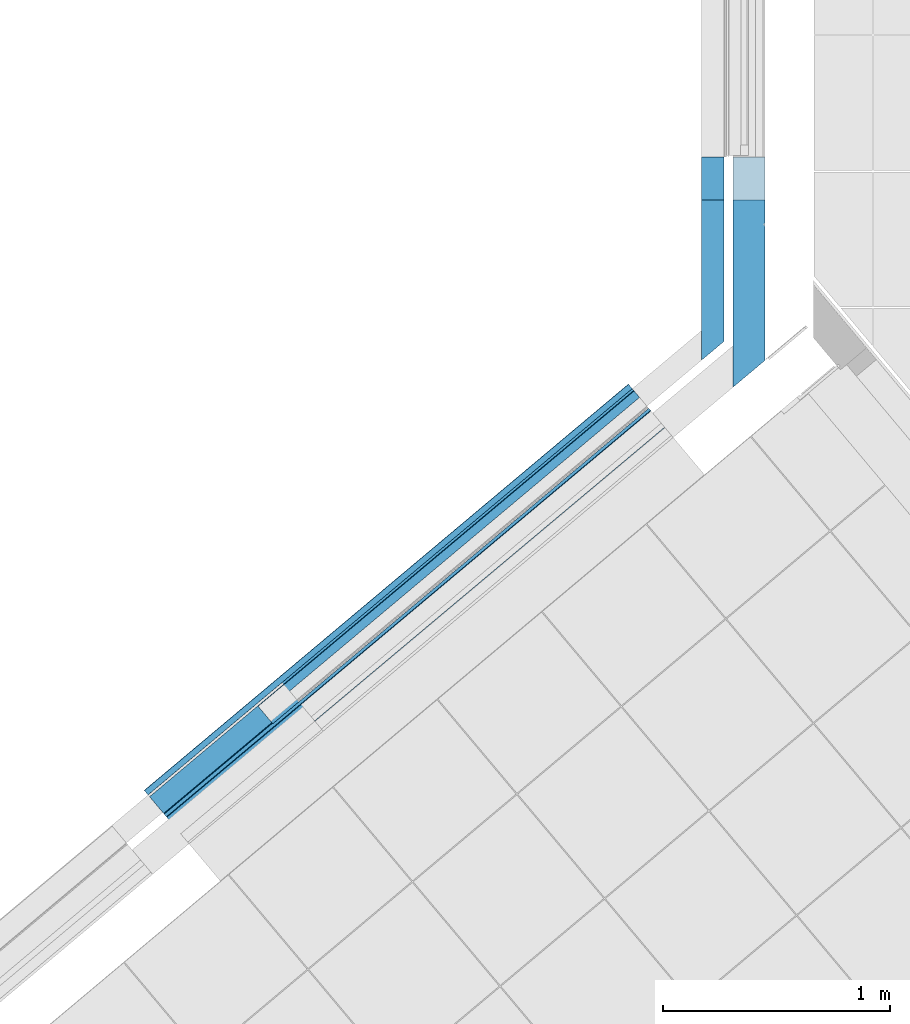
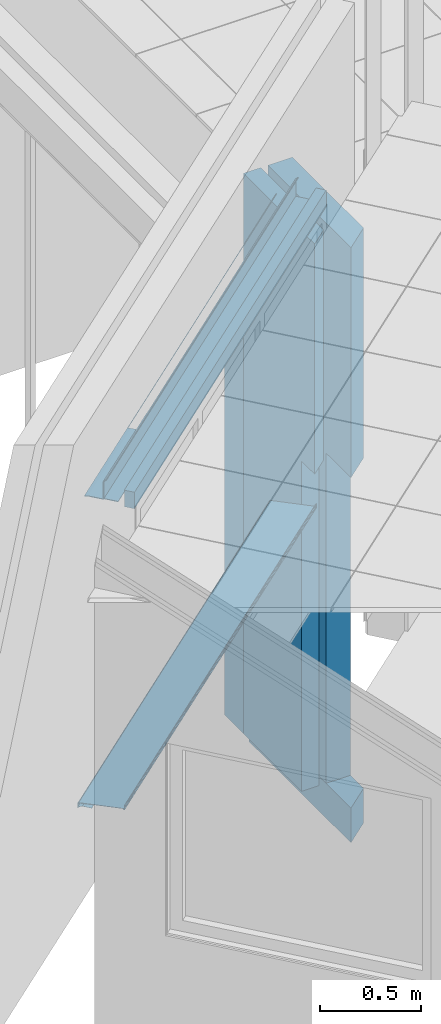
# One storey, part 57 of 321: 9 building element parts, 5 elements without a shape of their own.
"""IFC2X3 building model written with IfcOpenShell, lengths in millimetres."""

from ifc_helpers import new_model, entity, si_unit, converted_unit, derived_unit, money_unit, direction, frame, origin_with_axes, place, context, subcontext, project, spatial, faceted_brep, material, type_object, element, aggregate, save


model = new_model("IFC2X3")

# Units and contexts
model_context = context("Model", 3, precision=0.01, world=origin_with_axes(), true_north=direction((0.0, 1.0)))
plan_context = context("Plan", 3, precision=0.01, world=origin_with_axes(), true_north=direction((0.0, 1.0)))
body_context = subcontext(model_context, "Body", "Model", "MODEL_VIEW")
ifc_project = project(units=[si_unit("LENGTHUNIT", "METRE", prefix="MILLI"), si_unit("AREAUNIT", "SQUARE_METRE"), si_unit("VOLUMEUNIT", "CUBIC_METRE"), converted_unit("PLANEANGLEUNIT", "DEGREE", entity("IfcPlaneAngleMeasure", 0.0174532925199), si_unit("PLANEANGLEUNIT", "RADIAN"), dimensions=[0, 0, 0, 0, 0, 0, 0]), money_unit("EUR"), converted_unit("TIMEUNIT", "Year", entity("IfcTimeMeasure", 31556926.0), si_unit("TIMEUNIT", "SECOND"), dimensions=[0, 0, 1, 0, 0, 0, 0]), si_unit("MASSUNIT", "GRAM", prefix="KILO"), si_unit("THERMODYNAMICTEMPERATUREUNIT", "DEGREE_CELSIUS"), si_unit("LUMINOUSINTENSITYUNIT", "LUMEN"), si_unit("ENERGYUNIT", "JOULE", prefix="MEGA"), derived_unit("THERMALCONDUCTANCEUNIT", [(si_unit("POWERUNIT", "WATT"), 1), (si_unit("LENGTHUNIT", "METRE"), -1), (si_unit("THERMODYNAMICTEMPERATUREUNIT", "KELVIN"), -1)]), derived_unit("SPECIFICHEATCAPACITYUNIT", [(si_unit("ENERGYUNIT", "JOULE"), 1), (si_unit("MASSUNIT", "GRAM", prefix="KILO"), -1), (si_unit("THERMODYNAMICTEMPERATUREUNIT", "KELVIN"), -1)]), derived_unit("MASSDENSITYUNIT", [(si_unit("MASSUNIT", "GRAM", prefix="KILO"), 1), (si_unit("VOLUMEUNIT", "CUBIC_METRE"), -1)])], contexts=[model_context, plan_context])

# Site, building, storey
site_placement = place(None, origin_with_axes())
site = spatial("IfcSite", under=ifc_project, at=site_placement, Name="Fortuinstraat Woensdrecht", CompositionType="ELEMENT")
building_placement = place(site_placement, origin_with_axes())
building = spatial("IfcBuilding", under=site, at=building_placement, Name="IKC Fortuna", CompositionType="ELEMENT")
storey_placement = place(building_placement, frame((0.0, 0.0, 4000.0), z_axis=(0.0, 0.0, 1.0), x_axis=(1.0, 0.0, 0.0)))
storey = spatial("IfcBuildingStorey", under=building, at=storey_placement, Name="01 eerste verdieping", CompositionType="ELEMENT", Elevation=4000.0)

# Wall, building element parts
wall_type = type_object("IfcWallType", Name="21 MW hoofd 280", PredefinedType="NOTDEFINED")
wall_placement = place(storey_placement, frame((13315.4349765, 12114.91408, 447.5), z_axis=(0.0, 0.0, 1.0), x_axis=(0.0, -1.0, 0.0)))
wall = element("IfcWall", 1, at=wall_placement, inside=storey, type_object=wall_type, Name="21_Wand_Baksteen")
ifc_material_1 = material(Name="ALG - ISOLATIE")
building_element_part_1_placement = place(wall_placement, origin_with_axes())
building_element_part_1 = element("IfcBuildingElementPart", 2, at=building_element_part_1_placement, material=ifc_material_1, Name="ALG - ISOLATIE", context=body_context, shape_type="Brep", body=[
    faceted_brep([(706.989605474, 280.0, 2000.0), (576.42346119, 280.0, 2000.0), (576.42346119, 280.0, 0.0), (0.0, 280.0, 0.0), (0.0, 280.0, 3392.5), (706.989605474, 280.0, 3392.5), (576.42346119, 140.0, 2000.0), (824.463553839, 140.0, 2000.0), (576.42346119, 140.0, 0.0), (0.0, 140.0, 0.0), (0.0, 140.0, 3392.5), (824.463553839, 140.0, 3392.5)], [[[0, 1, 2, 3, 4, 5]], [[6, 1, 0, 7]], [[8, 2, 1, 6]], [[3, 2, 8, 9]], [[10, 4, 3, 9]], [[10, 11, 5, 4]], [[11, 7, 0, 5]], [[8, 6, 7, 11, 10, 9]]]),
])
ifc_material_2 = material(Name="Steen - Baksteen Hoofd")
building_element_part_2_placement = place(wall_placement, origin_with_axes())
building_element_part_2 = element("IfcBuildingElementPart", 3, at=building_element_part_2_placement, material=ifc_material_2, Name="Steen - Baksteen Hoofd", context=body_context, shape_type="Brep", body=[
    faceted_brep([(33.6699097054, 100.0, 2352.5), (33.6699097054, 100.0, 2363.32842713), (0.0, 100.0, 2363.32842713), (0.0, 100.0, 3392.5), (623.054216, 99.9999998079, 3392.5), (623.054222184, 100.000005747, 2000.0), (576.42346119, 100.0, 2000.0), (576.42346119, 100.0, 0.0), (0.0, 100.0, 0.0), (0.0, 100.0, 2352.5), (33.6699097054, 19.9999999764, 2352.5), (33.6699097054, 19.9999999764, 2356.5), (33.6699097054, 21.7573592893, 2360.74264069), (33.6699097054, 25.9999999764, 2362.5), (33.6699097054, 97.9999999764, 2362.5), (0.0, 97.9999999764, 2362.5), (0.0, 19.9999999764, 2352.5), (0.0, 0.0, 0.0), (0.0, 0.0, 3392.5), (0.0, 25.9999999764, 2362.5), (0.0, 21.7573592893, 2360.74264069), (0.0, 19.9999999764, 2356.5), (706.96417949, -3.01609404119e-07, 3392.5), (706.964185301, 5.74697445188e-06, 2000.0), (576.42346119, 0.0, 2000.0), (576.42346119, 0.0, 0.0)], [[[0, 1, 2, 3, 4, 5, 6, 7, 8, 9]], [[1, 0, 10, 11, 12, 13, 14]], [[15, 2, 1, 14]], [[16, 9, 8, 17, 18, 3, 2, 15, 19, 20, 21]], [[3, 18, 22, 4]], [[22, 23, 5, 4]], [[24, 6, 5, 23]], [[6, 24, 25, 7]], [[25, 17, 8, 7]], [[0, 9, 16, 10]], [[16, 21, 11, 10]], [[21, 20, 12, 11]], [[20, 19, 13, 12]], [[19, 15, 14, 13]], [[25, 24, 23, 22, 18, 17]]]),
])
aggregate(wall, [building_element_part_1, building_element_part_2])

# Covering, building element part
covering_type_1 = type_object("IfcCoveringType", Name="41 Rollaag 280 x 210", PredefinedType="NOTDEFINED")
covering_1_placement = place(storey_placement, frame((13455.4349765, 11473.2075466, 237.5), z_axis=(0.0, 0.0, 1.0), x_axis=(0.0, 1.0, 0.0)))
covering_1 = element("IfcCovering", 4, at=covering_1_placement, inside=storey, type_object=covering_type_1, Name="41_Afwerking_Rollaag", PredefinedType="NOTDEFINED")
building_element_part_3_placement = place(covering_1_placement, origin_with_axes())
building_element_part_3 = element("IfcBuildingElementPart", 5, at=building_element_part_3_placement, material=ifc_material_1, Name="ALG - ISOLATIE", context=body_context, shape_type="Brep", body=[
    faceted_brep([(-182.757020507, 0.0, 210.0), (-65.2830721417, -140.0, 210.0), (829.20653333, -140.0, 210.0), (829.20653333, 0.0, 210.0), (-65.2830721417, -140.0, 0.0), (-182.757020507, 0.0, 0.0), (829.20653333, -140.0, 0.0), (829.20653333, 0.0, 0.0)], [[[0, 1, 2, 3]], [[4, 1, 0, 5]], [[1, 4, 6, 2]], [[6, 7, 3, 2]], [[5, 0, 3, 7]], [[4, 5, 7, 6]]]),
])
aggregate(covering_1, [building_element_part_3])

covering_type_2 = type_object("IfcCoveringType", Name="21 MW accent rollaag 280", PredefinedType="NOTDEFINED")
covering_2_placement = place(storey_placement, frame((13315.4349765, 12114.91408, 447.5), z_axis=(0.0, 0.0, 1.0), x_axis=(0.0, 1.0, 0.0)))
covering_2 = element("IfcCovering", 6, at=covering_2_placement, inside=storey, type_object=covering_type_2, Name="41_Afwerking_Rollaag", PredefinedType="NOTDEFINED")
ifc_material_3 = material(Name="Steen - Baksteen Accent Rollaag")
building_element_part_4_placement = place(covering_2_placement, origin_with_axes())
building_element_part_4 = element("IfcBuildingElementPart", 7, at=building_element_part_4_placement, material=ifc_material_3, Name="Steen - Baksteen Accent Rollaag", context=body_context, shape_type="Brep", body=[
    faceted_brep([(0.0, -100.0, 2363.32842713), (187.5, -100.0, 2363.32842713), (187.5, -100.0, 2562.5), (0.0, -100.0, 2562.5), (187.5, -97.9999999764, 2362.5), (0.0, -97.9999999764, 2362.5), (187.5, -19.9999999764, 2352.5), (187.5, -100.0, 2352.5), (187.5, -100.0, 0.0), (187.5, 0.0, 0.0), (187.5, 0.0, 2562.5), (187.5, -25.9999999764, 2362.5), (187.5, -21.7573592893, 2360.74264069), (187.5, -19.9999999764, 2356.5), (0.0, 0.0, 2562.5), (0.0, 0.0, 0.0), (0.0, -100.0, 0.0), (0.0, -100.0, 2352.5), (0.0, -19.9999999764, 2352.5), (0.0, -19.9999999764, 2356.5), (0.0, -21.7573592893, 2360.74264069), (0.0, -25.9999999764, 2362.5)], [[[0, 1, 2, 3]], [[4, 1, 0, 5]], [[6, 7, 8, 9, 10, 2, 1, 4, 11, 12, 13]], [[3, 2, 10, 14]], [[5, 0, 3, 14, 15, 16, 17, 18, 19, 20, 21]], [[11, 4, 5, 21]], [[17, 7, 6, 18]], [[7, 17, 16, 8]], [[15, 9, 8, 16]], [[14, 10, 9, 15]], [[12, 11, 21, 20]], [[13, 12, 20, 19]], [[6, 13, 19, 18]]]),
])
aggregate(covering_2, [building_element_part_4])

# Covering, building element parts
covering_type_3 = type_object("IfcCoveringType", Name="41 Waterslag MW 545 x 90", PredefinedType="NOTDEFINED")
covering_3_placement = place(storey_placement, frame((13101.5865988, 11176.2935034, 2522.49999925), z_axis=(0.0, 0.0, 1.0), x_axis=(-0.766044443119, -0.642787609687, 0.0)))
covering_3 = element("IfcCovering", 8, at=covering_3_placement, inside=storey, type_object=covering_type_3, Name="41_Afwerking_Waterslag", PredefinedType="NOTDEFINED")
ifc_material_4 = material(Name="Metaal - Aluminium")
building_element_part_5_placement = place(covering_3_placement, origin_with_axes())
building_element_part_5 = element("IfcBuildingElementPart", 9, at=building_element_part_5_placement, material=ifc_material_4, Name="Metaal - Aluminium", context=body_context, shape_type="Brep", body=[
    faceted_brep([(2780.83841466, -167.003696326, -64.7512509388), (2780.83841466, -164.901915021, -59.3465292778), (0.0, -164.901915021, -59.3465292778), (0.0, -167.003696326, -64.7512509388), (2780.83841466, -167.003696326, -86.9206015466), (2780.83841466, -166.030466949, -89.132433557), (2780.83841466, -163.742229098, -89.9091856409), (2780.83841466, -162.360118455, -89.7882666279), (2780.83841466, -162.035057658, -89.6279643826), (2780.83841466, -161.903696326, -89.2901692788), (2780.83841466, -161.903696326, -84.9222091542), (2780.83841466, -162.050140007, -84.5686628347), (2780.83841466, -162.403686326, -84.4222191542), (2780.83841466, -162.653694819, -84.4222191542), (2780.83841466, -163.358998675, -84.7155720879), (2780.83841466, -163.403696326, -84.9222091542), (2780.83841466, -163.403696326, -86.7222191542), (2780.83841466, -163.46227497, -86.8636405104), (2780.83841466, -163.603696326, -86.9222191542), (2780.83841466, -165.303696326, -86.9222191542), (2780.83841466, -165.445117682, -86.8636405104), (2780.83841466, -165.503696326, -86.7222191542), (2780.83841466, -165.503696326, -66.105485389), (2780.83841466, -165.451151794, -65.9703673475), (2780.83841466, -165.321127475, -65.9062464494), (2780.83841466, -163.621127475, -65.7575157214), (2780.83841466, -163.468578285, -65.8092991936), (2780.83841466, -163.403696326, -65.956754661), (2780.83841466, -163.403696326, -67.9222291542), (2780.83841466, -163.257252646, -68.2757754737), (2780.83841466, -162.903706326, -68.4222191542), (2780.83841466, -162.403686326, -68.4222191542), (2780.83841466, -162.050140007, -68.2757754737), (2780.83841466, -161.903696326, -67.9222291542), (2780.83841466, -161.903696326, -65.7905262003), (2780.83841466, -161.851151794, -65.6554081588), (2780.83841466, -161.721127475, -65.5912872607), (2780.83841466, -157.460879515, -65.2185638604), (2780.83841466, -157.135818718, -65.0582616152), (2780.83841466, -157.004457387, -64.7204665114), (2780.83841466, -157.004457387, -64.2185456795), (2780.83841466, -157.166659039, -63.8499143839), (2780.83841466, -157.548024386, -63.7204582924), (2780.83841466, -164.111737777, -64.2947088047), (2780.83841466, -164.52638143, -64.131738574), (2780.83841466, -164.646415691, -63.7026926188), (2780.83841466, -162.774740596, -60.3769292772), (2780.83841466, -159.276149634, -58.852550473), (2780.83841466, 80.4527258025, -37.8789915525), (2780.83841466, 80.8340987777, -38.0084502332), (2780.83841466, 80.9963036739, -38.3770889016), (2780.83841466, 80.9963036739, -42.3923682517), (2780.83841466, 80.8649423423, -42.7301633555), (2780.83841466, 80.5398815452, -42.8904656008), (2780.83841466, 74.9527258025, -43.3792783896), (2780.83841466, 74.6276650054, -43.5395806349), (2780.83841466, 74.4963036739, -43.8773757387), (2780.83841466, 74.4963036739, -44.3792856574), (2780.83841466, 74.65850857, -44.7479243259), (2780.83841466, 75.0398815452, -44.8773830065), (2780.83841466, 82.4237866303, -44.231375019), (2780.83841466, 82.547776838, -44.1735574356), (2780.83841466, 82.9377250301, -43.7836092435), (2780.83841466, 83.0, -43.6421878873), (2780.83841466, 82.9377250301, -43.5007665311), (2780.83841466, 82.4963036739, -43.0593451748), (2780.83841466, 82.9377250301, -42.6179238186), (2780.83841466, 83.0, -42.4765024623), (2780.83841466, 82.9377250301, -42.3350811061), (2780.83841466, 82.4963036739, -41.8936597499), (2780.83841466, 82.9377250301, -41.4522383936), (2780.83841466, 83.0, -41.3108170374), (2780.83841466, 82.9377250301, -41.1693956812), (2780.83841466, 82.4963036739, -40.7279743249), (2780.83841466, 82.9377250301, -40.2865529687), (2780.83841466, 83.0, -40.1451316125), (2780.83841466, 82.9377250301, -40.0037102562), (2780.83841466, 82.4963036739, -39.5622889), (2780.83841466, 82.9377250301, -39.1208675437), (2780.83841466, 83.0, -38.9794461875), (2780.83841466, 82.9377250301, -38.8380248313), (2780.83841466, 82.4963036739, -38.396603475), (2780.83841466, 82.9377250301, -37.9551821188), (2780.83841466, 83.0, -37.8137607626), (2780.83841466, 82.9377250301, -37.6723394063), (2780.83841466, 82.4963036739, -37.2309180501), (2780.83841466, 82.9377250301, -36.7894966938), (2780.83841466, 83.0, -36.6480753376), (2780.83841466, 82.9377250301, -36.5066539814), (2780.83841466, 82.4963036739, -36.0652326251), (2780.83841466, 82.9377250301, -35.6238112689), (2780.83841466, 83.0, -35.4823899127), (2780.83841466, 82.9377250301, -35.3409685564), (2780.83841466, 82.4963036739, -34.8995472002), (2780.83841466, 82.9377250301, -34.4581258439), (2780.83841466, 83.0, -34.3167044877), (2780.83841466, 82.9377250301, -34.1752831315), (2780.83841466, 82.4963036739, -33.7338617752), (2780.83841466, 82.9377250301, -33.292440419), (2780.83841466, 83.0, -33.1510190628), (2780.83841466, 82.9377250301, -33.0095977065), (2780.83841466, 82.4963036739, -32.5681763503), (2780.83841466, 82.9377250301, -32.126754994), (2780.83841466, 83.0, -31.9853336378), (2780.83841466, 82.9377250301, -31.8439122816), (2780.83841466, 82.4963036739, -31.4024909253), (2780.83841466, 82.9377250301, -30.9610695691), (2780.83841466, 83.0, -30.8196482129), (2780.83841466, 82.9377250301, -30.6782268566), (2780.83841466, 82.4963036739, -30.2368055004), (2780.83841466, 82.9377250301, -29.7953841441), (2780.83841466, 83.0, -29.6539627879), (2780.83841466, 82.9377250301, -29.5125414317), (2780.83841466, 82.4963036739, -29.0711200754), (2780.83841466, 82.9377250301, -28.6296987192), (2780.83841466, 83.0, -28.488277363), (2780.83841466, 82.9377250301, -28.3468560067), (2780.83841466, 82.4963036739, -27.9054346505), (2780.83841466, 82.9377250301, -27.4640132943), (2780.83841466, 83.0, -27.322591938), (2780.83841466, 82.9377250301, -27.1811705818), (2780.83841466, 82.4963036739, -26.7397492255), (2780.83841466, 82.9377250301, -26.2983278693), (2780.83841466, 83.0, -26.1569065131), (2780.83841466, 82.9377250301, -26.0154851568), (2780.83841466, 82.4963036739, -25.5740638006), (2780.83841466, 82.9377250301, -25.1326424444), (2780.83841466, 83.0, -24.9912210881), (2780.83841466, 82.9377250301, -24.8497997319), (2780.83841466, 82.4963036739, -24.4083783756), (2780.83841466, 82.9377250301, -23.9669570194), (2780.83841466, 83.0, -23.8255356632), (2780.83841466, 82.9377250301, -23.6841143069), (2780.83841466, 82.4963036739, -23.2426929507), (2780.83841466, 82.9377250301, -22.8012715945), (2780.83841466, 83.0, -22.6598502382), (2780.83841466, 82.9377250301, -22.518428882), (2780.83841466, 82.4963036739, -22.0770075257), (2780.83841466, 82.9377250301, -21.6355861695), (2780.83841466, 83.0, -21.4941648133), (2780.83841466, 82.9377250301, -21.352743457), (2780.83841466, 82.4963036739, -20.9113221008), (2780.83841466, 82.9377250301, -20.4699007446), (2780.83841466, 83.0, -20.3284793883), (2780.83841466, 82.9377250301, -20.1870580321), (2780.83841466, 82.4963036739, -19.7456366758), (2780.83841466, 82.9377250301, -19.3042153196), (2780.83841466, 83.0, -19.1627939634), (2780.83841466, 82.9377250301, -19.0213726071), (2780.83841466, 82.4963036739, -18.5799512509), (2780.83841466, 82.9377250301, -18.1385298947), (2780.83841466, 83.0, -17.9971085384), (2780.83841466, 82.9377250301, -17.8556871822), (2780.83841466, 82.4963036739, -17.4142658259), (2780.83841466, 82.9377250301, -16.9728444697), (2780.83841466, 82.9963036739, -16.8314231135), (2780.83841466, 82.9963036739, -16.4250305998), (2780.83841466, 82.9437448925, -16.2898970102), (2780.83841466, 82.8136928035, -16.2257879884), (2780.83841466, 82.3655700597, -16.2619509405), (2780.83841466, 81.3903876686, -16.7428576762), (2780.83841466, 80.9963036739, -17.7562429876), (2780.83841466, 80.9963036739, -35.2652474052), (2780.83841466, 80.8649423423, -35.603042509), (2780.83841466, 80.5398815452, -35.7633447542), (2780.83841466, -159.700942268, -56.781693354), (0.0, -159.700942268, -56.781693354), (0.0, 80.5398815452, -35.7633447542), (0.0, 80.8649423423, -35.603042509), (0.0, 80.9963036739, -35.2652474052), (0.0, 80.9963036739, -17.7562429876), (0.0, 81.3903876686, -16.7428576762), (0.0, 82.3655700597, -16.2619509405), (0.0, 82.8136928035, -16.2257879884), (0.0, 82.9437448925, -16.2898970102), (0.0, 82.9963036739, -16.4250305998), (0.0, 82.9963036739, -16.8314231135), (0.0, 82.9377250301, -16.9728444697), (0.0, 82.4963036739, -17.4142658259), (0.0, 82.9377250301, -17.8556871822), (0.0, 83.0, -17.9971085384), (0.0, 82.9377250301, -18.1385298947), (0.0, 82.4963036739, -18.5799512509), (0.0, 82.9377250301, -19.0213726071), (0.0, 83.0, -19.1627939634), (0.0, 82.9377250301, -19.3042153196), (0.0, 82.4963036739, -19.7456366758), (0.0, 82.9377250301, -20.1870580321), (0.0, 83.0, -20.3284793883), (0.0, 82.9377250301, -20.4699007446), (0.0, 82.4963036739, -20.9113221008), (0.0, 82.9377250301, -21.352743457), (0.0, 83.0, -21.4941648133), (0.0, 82.9377250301, -21.6355861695), (0.0, 82.4963036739, -22.0770075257), (0.0, 82.9377250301, -22.518428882), (0.0, 83.0, -22.6598502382), (0.0, 82.9377250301, -22.8012715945), (0.0, 82.4963036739, -23.2426929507), (0.0, 82.9377250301, -23.6841143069), (0.0, 83.0, -23.8255356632), (0.0, 82.9377250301, -23.9669570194), (0.0, 82.4963036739, -24.4083783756), (0.0, 82.9377250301, -24.8497997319), (0.0, 83.0, -24.9912210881), (0.0, 82.9377250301, -25.1326424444), (0.0, 82.4963036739, -25.5740638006), (0.0, 82.9377250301, -26.0154851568), (0.0, 83.0, -26.1569065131), (0.0, 82.9377250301, -26.2983278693), (0.0, 82.4963036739, -26.7397492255), (0.0, 82.9377250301, -27.1811705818), (0.0, 83.0, -27.322591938), (0.0, 82.9377250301, -27.4640132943), (0.0, 82.4963036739, -27.9054346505), (0.0, 82.9377250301, -28.3468560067), (0.0, 83.0, -28.488277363), (0.0, 82.9377250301, -28.6296987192), (0.0, 82.4963036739, -29.0711200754), (0.0, 82.9377250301, -29.5125414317), (0.0, 83.0, -29.6539627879), (0.0, 82.9377250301, -29.7953841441), (0.0, 82.4963036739, -30.2368055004), (0.0, 82.9377250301, -30.6782268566), (0.0, 83.0, -30.8196482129), (0.0, 82.9377250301, -30.9610695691), (0.0, 82.4963036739, -31.4024909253), (0.0, 82.9377250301, -31.8439122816), (0.0, 83.0, -31.9853336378), (0.0, 82.9377250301, -32.126754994), (0.0, 82.4963036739, -32.5681763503), (0.0, 82.9377250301, -33.0095977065), (0.0, 83.0, -33.1510190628), (0.0, 82.9377250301, -33.292440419), (0.0, 82.4963036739, -33.7338617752), (0.0, 82.9377250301, -34.1752831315), (0.0, 83.0, -34.3167044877), (0.0, 82.9377250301, -34.4581258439), (0.0, 82.4963036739, -34.8995472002), (0.0, 82.9377250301, -35.3409685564), (0.0, 83.0, -35.4823899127), (0.0, 82.9377250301, -35.6238112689), (0.0, 82.4963036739, -36.0652326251), (0.0, 82.9377250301, -36.5066539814), (0.0, 83.0, -36.6480753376), (0.0, 82.9377250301, -36.7894966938), (0.0, 82.4963036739, -37.2309180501), (0.0, 82.9377250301, -37.6723394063), (0.0, 83.0, -37.8137607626), (0.0, 82.9377250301, -37.9551821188), (0.0, 82.4963036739, -38.396603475), (0.0, 82.9377250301, -38.8380248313), (0.0, 83.0, -38.9794461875), (0.0, 82.9377250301, -39.1208675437), (0.0, 82.4963036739, -39.5622889), (0.0, 82.9377250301, -40.0037102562), (0.0, 83.0, -40.1451316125), (0.0, 82.9377250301, -40.2865529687), (0.0, 82.4963036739, -40.7279743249), (0.0, 82.9377250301, -41.1693956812), (0.0, 83.0, -41.3108170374), (0.0, 82.9377250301, -41.4522383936), (0.0, 82.4963036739, -41.8936597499), (0.0, 82.9377250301, -42.3350811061), (0.0, 83.0, -42.4765024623), (0.0, 82.9377250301, -42.6179238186), (0.0, 82.4963036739, -43.0593451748), (0.0, 82.9377250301, -43.5007665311), (0.0, 83.0, -43.6421878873), (0.0, 82.9377250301, -43.7836092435), (0.0, 82.547776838, -44.1735574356), (0.0, 82.4237866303, -44.231375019), (0.0, 75.0398815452, -44.8773830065), (0.0, 74.65850857, -44.7479243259), (0.0, 74.4963036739, -44.3792856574), (0.0, 74.4963036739, -43.8773757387), (0.0, 74.6276650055, -43.5395806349), (0.0, 74.9527258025, -43.3792783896), (0.0, 80.5398815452, -42.8904656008), (0.0, 80.8649423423, -42.7301633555), (0.0, 80.9963036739, -42.3923682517), (0.0, 80.9963036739, -38.3770889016), (0.0, 80.8340987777, -38.0084502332), (0.0, 80.4527258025, -37.8789915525), (0.0, -159.276149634, -58.852550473), (0.0, -162.774740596, -60.3769292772), (0.0, -164.646415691, -63.7026926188), (0.0, -164.52638143, -64.131738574), (0.0, -164.111737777, -64.2947088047), (0.0, -157.548024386, -63.7204582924), (0.0, -157.166659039, -63.8499143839), (0.0, -157.004457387, -64.2185456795), (0.0, -157.004457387, -64.7204665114), (0.0, -157.135818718, -65.0582616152), (0.0, -157.460879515, -65.2185638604), (0.0, -161.721127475, -65.5912872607), (0.0, -161.851151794, -65.6554081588), (0.0, -161.903696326, -65.7905262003), (0.0, -161.903696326, -67.9222291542), (0.0, -162.050140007, -68.2757754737), (0.0, -162.403686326, -68.4222191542), (0.0, -162.903706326, -68.4222191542), (0.0, -163.257252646, -68.2757754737), (0.0, -163.403696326, -67.9222291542), (0.0, -163.403696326, -65.956754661), (0.0, -163.468578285, -65.8092991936), (0.0, -163.621127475, -65.7575157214), (0.0, -165.321127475, -65.9062464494), (0.0, -165.451151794, -65.9703673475), (0.0, -165.503696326, -66.105485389), (0.0, -165.503696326, -86.7222191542), (0.0, -165.445117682, -86.8636405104), (0.0, -165.303696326, -86.9222191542), (0.0, -163.603696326, -86.9222191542), (0.0, -163.46227497, -86.8636405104), (0.0, -163.403696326, -86.7222191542), (0.0, -163.403696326, -84.9222091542), (0.0, -163.358998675, -84.7155720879), (0.0, -162.653694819, -84.4222191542), (0.0, -162.403686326, -84.4222191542), (0.0, -162.050140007, -84.5686628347), (0.0, -161.903696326, -84.9222091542), (0.0, -161.903696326, -89.2901692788), (0.0, -162.035057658, -89.6279643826), (0.0, -162.360118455, -89.7882666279), (0.0, -163.742229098, -89.9091856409), (0.0, -166.030466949, -89.132433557), (0.0, -167.003696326, -86.9206015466)], [[[0, 1, 2, 3]], [[0, 4, 5, 6, 7, 8, 9, 10, 11, 12, 13, 14, 15, 16, 17, 18, 19, 20, 21, 22, 23, 24, 25, 26, 27, 28, 29, 30, 31, 32, 33, 34, 35, 36, 37, 38, 39, 40, 41, 42, 43, 44, 45, 46, 47, 48, 49, 50, 51, 52, 53, 54, 55, 56, 57, 58, 59, 60, 61, 62, 63, 64, 65, 66, 67, 68, 69, 70, 71, 72, 73, 74, 75, 76, 77, 78, 79, 80, 81, 82, 83, 84, 85, 86, 87, 88, 89, 90, 91, 92, 93, 94, 95, 96, 97, 98, 99, 100, 101, 102, 103, 104, 105, 106, 107, 108, 109, 110, 111, 112, 113, 114, 115, 116, 117, 118, 119, 120, 121, 122, 123, 124, 125, 126, 127, 128, 129, 130, 131, 132, 133, 134, 135, 136, 137, 138, 139, 140, 141, 142, 143, 144, 145, 146, 147, 148, 149, 150, 151, 152, 153, 154, 155, 156, 157, 158, 159, 160, 161, 162, 163, 164, 165, 1]], [[1, 165, 166, 2]], [[3, 2, 166, 167, 168, 169, 170, 171, 172, 173, 174, 175, 176, 177, 178, 179, 180, 181, 182, 183, 184, 185, 186, 187, 188, 189, 190, 191, 192, 193, 194, 195, 196, 197, 198, 199, 200, 201, 202, 203, 204, 205, 206, 207, 208, 209, 210, 211, 212, 213, 214, 215, 216, 217, 218, 219, 220, 221, 222, 223, 224, 225, 226, 227, 228, 229, 230, 231, 232, 233, 234, 235, 236, 237, 238, 239, 240, 241, 242, 243, 244, 245, 246, 247, 248, 249, 250, 251, 252, 253, 254, 255, 256, 257, 258, 259, 260, 261, 262, 263, 264, 265, 266, 267, 268, 269, 270, 271, 272, 273, 274, 275, 276, 277, 278, 279, 280, 281, 282, 283, 284, 285, 286, 287, 288, 289, 290, 291, 292, 293, 294, 295, 296, 297, 298, 299, 300, 301, 302, 303, 304, 305, 306, 307, 308, 309, 310, 311, 312, 313, 314, 315, 316, 317, 318, 319, 320, 321, 322, 323, 324, 325, 326, 327]], [[4, 0, 3, 327]], [[5, 4, 327, 326]], [[6, 5, 326, 325]], [[7, 6, 325, 324]], [[8, 7, 324, 323]], [[9, 8, 323, 322]], [[10, 9, 322, 321]], [[11, 10, 321, 320]], [[12, 11, 320, 319]], [[13, 12, 319, 318]], [[14, 13, 318, 317]], [[15, 14, 317, 316]], [[16, 15, 316, 315]], [[17, 16, 315, 314]], [[18, 17, 314, 313]], [[19, 18, 313, 312]], [[20, 19, 312, 311]], [[21, 20, 311, 310]], [[22, 21, 310, 309]], [[23, 22, 309, 308]], [[24, 23, 308, 307]], [[25, 24, 307, 306]], [[26, 25, 306, 305]], [[27, 26, 305, 304]], [[28, 27, 304, 303]], [[29, 28, 303, 302]], [[30, 29, 302, 301]], [[31, 30, 301, 300]], [[32, 31, 300, 299]], [[33, 32, 299, 298]], [[34, 33, 298, 297]], [[35, 34, 297, 296]], [[36, 35, 296, 295]], [[37, 36, 295, 294]], [[38, 37, 294, 293]], [[39, 38, 293, 292]], [[40, 39, 292, 291]], [[41, 40, 291, 290]], [[42, 41, 290, 289]], [[43, 42, 289, 288]], [[44, 43, 288, 287]], [[45, 44, 287, 286]], [[46, 45, 286, 285]], [[47, 46, 285, 284]], [[48, 47, 284, 283]], [[49, 48, 283, 282]], [[50, 49, 282, 281]], [[51, 50, 281, 280]], [[52, 51, 280, 279]], [[53, 52, 279, 278]], [[54, 53, 278, 277]], [[55, 54, 277, 276]], [[56, 55, 276, 275]], [[57, 56, 275, 274]], [[58, 57, 274, 273]], [[59, 58, 273, 272]], [[60, 59, 272, 271]], [[61, 60, 271, 270]], [[62, 61, 270, 269]], [[63, 62, 269, 268]], [[64, 63, 268, 267]], [[65, 64, 267, 266]], [[66, 65, 266, 265]], [[67, 66, 265, 264]], [[68, 67, 264, 263]], [[69, 68, 263, 262]], [[70, 69, 262, 261]], [[71, 70, 261, 260]], [[72, 71, 260, 259]], [[73, 72, 259, 258]], [[74, 73, 258, 257]], [[75, 74, 257, 256]], [[76, 75, 256, 255]], [[77, 76, 255, 254]], [[78, 77, 254, 253]], [[79, 78, 253, 252]], [[80, 79, 252, 251]], [[81, 80, 251, 250]], [[82, 81, 250, 249]], [[83, 82, 249, 248]], [[84, 83, 248, 247]], [[85, 84, 247, 246]], [[86, 85, 246, 245]], [[87, 86, 245, 244]], [[88, 87, 244, 243]], [[89, 88, 243, 242]], [[90, 89, 242, 241]], [[91, 90, 241, 240]], [[92, 91, 240, 239]], [[93, 92, 239, 238]], [[94, 93, 238, 237]], [[95, 94, 237, 236]], [[96, 95, 236, 235]], [[97, 96, 235, 234]], [[98, 97, 234, 233]], [[99, 98, 233, 232]], [[100, 99, 232, 231]], [[101, 100, 231, 230]], [[102, 101, 230, 229]], [[103, 102, 229, 228]], [[104, 103, 228, 227]], [[105, 104, 227, 226]], [[106, 105, 226, 225]], [[107, 106, 225, 224]], [[108, 107, 224, 223]], [[109, 108, 223, 222]], [[110, 109, 222, 221]], [[111, 110, 221, 220]], [[112, 111, 220, 219]], [[113, 112, 219, 218]], [[114, 113, 218, 217]], [[115, 114, 217, 216]], [[116, 115, 216, 215]], [[117, 116, 215, 214]], [[118, 117, 214, 213]], [[119, 118, 213, 212]], [[120, 119, 212, 211]], [[121, 120, 211, 210]], [[122, 121, 210, 209]], [[123, 122, 209, 208]], [[124, 123, 208, 207]], [[125, 124, 207, 206]], [[126, 125, 206, 205]], [[127, 126, 205, 204]], [[128, 127, 204, 203]], [[129, 128, 203, 202]], [[130, 129, 202, 201]], [[131, 130, 201, 200]], [[132, 131, 200, 199]], [[133, 132, 199, 198]], [[134, 133, 198, 197]], [[135, 134, 197, 196]], [[136, 135, 196, 195]], [[137, 136, 195, 194]], [[138, 137, 194, 193]], [[139, 138, 193, 192]], [[140, 139, 192, 191]], [[141, 140, 191, 190]], [[142, 141, 190, 189]], [[143, 142, 189, 188]], [[144, 143, 188, 187]], [[145, 144, 187, 186]], [[146, 145, 186, 185]], [[147, 146, 185, 184]], [[148, 147, 184, 183]], [[149, 148, 183, 182]], [[150, 149, 182, 181]], [[151, 150, 181, 180]], [[152, 151, 180, 179]], [[153, 152, 179, 178]], [[154, 153, 178, 177]], [[155, 154, 177, 176]], [[156, 155, 176, 175]], [[157, 156, 175, 174]], [[158, 157, 174, 173]], [[159, 158, 173, 172]], [[160, 159, 172, 171]], [[161, 160, 171, 170]], [[162, 161, 170, 169]], [[163, 162, 169, 168]], [[164, 163, 168, 167]], [[165, 164, 167, 166]]]),
])
building_element_part_6_placement = place(covering_3_placement, origin_with_axes())
building_element_part_6 = element("IfcBuildingElementPart", 10, at=building_element_part_6_placement, material=ifc_material_4, Name="Metaal - Aluminium", context=body_context, shape_type="Brep", body=[
    faceted_brep([(2780.83841466, -89.9999998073, -74.9999995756), (2780.83841466, -140.000000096, -74.9999995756), (0.0, -140.000000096, -74.9999995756), (0.0, -89.9999998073, -74.9999995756), (2780.83841466, -89.9999998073, -74.0000108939), (2780.83841466, -140.199670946, -73.9999995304), (2780.83841466, -165.503695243, -84.5245552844), (2780.83841466, -165.119664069, -85.4478754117), (2780.83841466, -163.358998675, -84.7155720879), (2780.83841466, -162.653694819, -84.4222191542), (0.0, -162.653694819, -84.4222191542), (0.0, -163.358998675, -84.7155720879), (0.0, -165.119664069, -85.4478754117), (0.0, -165.503695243, -84.5245552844), (0.0, -140.199670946, -73.9999995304), (0.0, -89.9999998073, -74.0000108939)], [[[0, 1, 2, 3]], [[0, 4, 5, 6, 7, 8, 9, 1]], [[1, 9, 10, 2]], [[3, 2, 10, 11, 12, 13, 14, 15]], [[4, 0, 3, 15]], [[5, 4, 15, 14]], [[6, 5, 14, 13]], [[7, 6, 13, 12]], [[8, 7, 12, 11]], [[9, 8, 11, 10]]]),
])
aggregate(covering_3, [building_element_part_5, building_element_part_6])

covering_type_4 = type_object("IfcCoveringType", Name="41 Latei MW 275 x 142", PredefinedType="NOTDEFINED")
covering_4_placement = place(storey_placement, frame((13101.5865988, 11176.2935034, 4335.0), z_axis=(0.0, 0.0, 1.0), x_axis=(-0.766044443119, -0.642787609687, 0.0)))
covering_4 = element("IfcCovering", 11, at=covering_4_placement, inside=storey, type_object=covering_type_4, Name="41_Afwerking_Waterslag", PredefinedType="NOTDEFINED")
ifc_material_5 = material(Name="Hout AFW")
building_element_part_7_placement = place(covering_4_placement, origin_with_axes())
building_element_part_7 = element("IfcBuildingElementPart", 12, at=building_element_part_7_placement, material=ifc_material_5, Name="Hout AFW", context=body_context, shape_type="Brep", body=[
    faceted_brep([(0.0, 135.0, 80.0), (2780.83841466, 135.0, 80.0), (2780.83841466, 135.0, -20.0), (0.0, 135.0, -20.0), (0.0, 81.0, 80.0), (2780.83841466, 81.0, 80.0), (2780.83841466, 81.0, 0.0), (2780.83841466, 81.0, -20.0), (0.0, 81.0, -20.0), (0.0, 81.0, 0.0)], [[[0, 1, 2, 3]], [[4, 5, 1, 0]], [[2, 1, 5, 6, 7]], [[3, 2, 7, 8]], [[4, 0, 3, 8, 9]], [[9, 6, 5, 4]], [[8, 7, 6, 9]]]),
])
ifc_material_6 = material(Name="Metaal - Staal AFW")
building_element_part_8_placement = place(covering_4_placement, origin_with_axes())
building_element_part_8 = element("IfcBuildingElementPart", 13, at=building_element_part_8_placement, material=ifc_material_6, Name="Metaal - Staal AFW", context=body_context, shape_type="Brep", body=[
    faceted_brep([(0.0, 49.0, 0.0), (2780.83841466, 49.0, 0.0), (2780.83841466, -26.0, 0.0), (0.0, -26.0, 0.0), (0.0, 49.0, 4.0), (2780.83841466, 49.0, 4.0), (2780.83841466, -26.0, 4.0), (0.0, -26.0, 4.0)], [[[0, 1, 2, 3]], [[4, 5, 1, 0]], [[2, 1, 5, 6]], [[3, 2, 6, 7]], [[4, 0, 3, 7]], [[7, 6, 5, 4]]]),
])
building_element_part_9_placement = place(covering_4_placement, origin_with_axes())
building_element_part_9 = element("IfcBuildingElementPart", 14, at=building_element_part_9_placement, material=ifc_material_6, Name="Metaal - Staal AFW", context=body_context, shape_type="Brep", body=[
    faceted_brep([(0.0, -27.440901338, -2.93998662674), (0.0, -27.440901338, 109.11110605), (0.0, -14.8284271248, 121.828427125), (0.0, -12.0000000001, 119.0), (0.0, -26.0, 105.0), (0.0, -26.0, 4.0), (0.0, -26.0, 0.0), (0.0, -27.1715728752, -2.82842712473), (2159.0038053, -27.440901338, 109.11110605), (2159.0038053, -27.440901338, -2.93998662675), (2159.0038053, -30.0000000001, 106.530733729), (2780.83841466, -30.0000000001, 106.530733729), (2780.83841466, -14.8284271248, 121.828427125), (2780.83841466, -12.0000000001, 119.0), (2780.83841466, -26.0, 105.0), (2780.83841466, -26.0, 4.0), (2780.83841466, -26.0, 0.0), (2780.83841466, -27.1715728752, -2.82842712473), (2780.83841466, -30.0, -4.0), (2159.0038053, -30.0, -4.0), (2159.0038053, -109.215535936, -3.99999886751), (2159.0038053, -127.440901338, -7.64507306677), (2159.0038053, -127.440901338, -4.00000000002), (2159.0038053, -127.244854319, -3.52670062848), (2159.0038053, -109.609685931, 0.0), (2159.0038053, -34.0, 0.0), (2159.0038053, -31.1715728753, 1.17157287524), (2159.0038053, -30.0000000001, 3.99999999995), (2780.83841466, -30.0000000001, 3.99999999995), (2780.83841466, -34.0, 0.0), (2780.83841466, -109.609685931, 0.0), (2780.83841466, -130.000000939, -4.07767792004), (2780.83841466, -129.215535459, -8.0), (2780.83841466, -109.215535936, -3.99999886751), (2780.83841466, -31.1715728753, 1.17157287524), (0.0, -129.215535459, -8.0), (0.0, -127.440901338, -7.64507306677), (0.0, -127.440901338, -4.00000000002), (0.0, -127.244854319, -3.52670062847), (0.0, -130.000000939, -4.07767792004)], [[[0, 1, 2, 3, 4, 5, 6, 7]], [[8, 1, 0, 9]], [[8, 10, 11, 12, 2, 1]], [[2, 12, 13, 3]], [[3, 13, 14, 4]], [[4, 14, 15, 5]], [[5, 15, 16, 6]], [[6, 16, 17, 7]], [[9, 0, 7, 17, 18, 19]], [[10, 8, 9, 19, 20, 21, 22, 23, 24, 25, 26, 27]], [[10, 27, 28, 11]], [[29, 30, 31, 32, 33, 18, 17, 16, 15, 14, 13, 12, 11, 28, 34]], [[20, 19, 18, 33]], [[21, 20, 33, 32, 35, 36]], [[36, 37, 22, 21]], [[37, 38, 23, 22]], [[23, 38, 39, 31, 30, 24]], [[25, 24, 30, 29]], [[26, 25, 29, 34]], [[27, 26, 34, 28]], [[35, 32, 31, 39]], [[37, 36, 35, 39, 38]]]),
])
aggregate(covering_4, [building_element_part_7, building_element_part_8, building_element_part_9])

save(model, "model.ifc")
